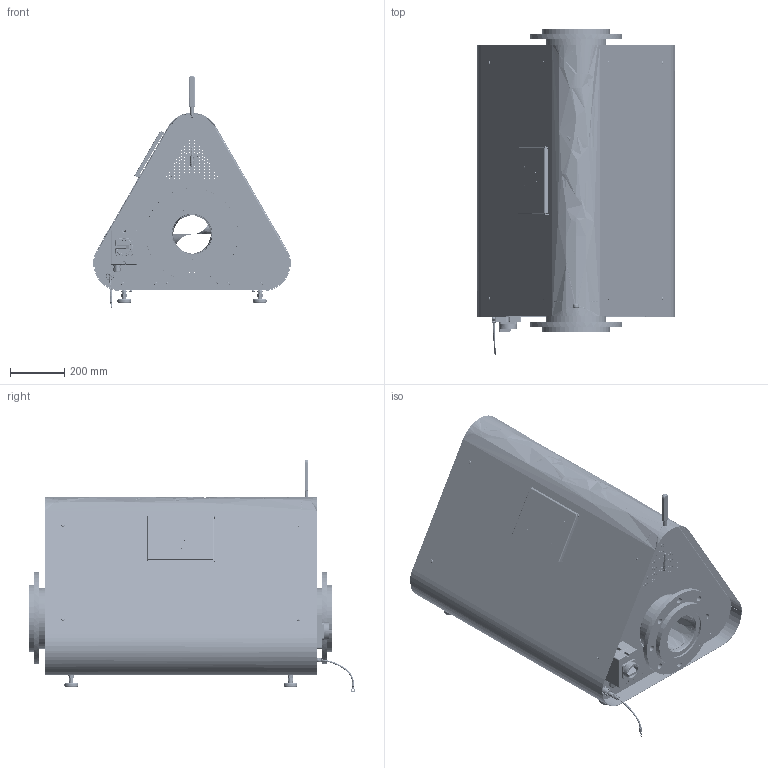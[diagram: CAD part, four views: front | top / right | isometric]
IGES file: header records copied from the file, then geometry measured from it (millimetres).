
Global section: file name: H Max 1 3D_V2.1; native system: Autodesk Inventor 2024; preprocessor: unknown; author: Massimo Maselli; date: 20240115.093337; units: millimetre
Bounding box: 728.82 x 1199.1 x 856.35 mm (x, y, z)
Volume: 16538863.2 mm3; surface area: 7934872.3 mm2
Topology: 89 solids, 89 shells, 6466 faces, 17773 edges, 11980 vertices
Faces by surface type: bspline 6466
